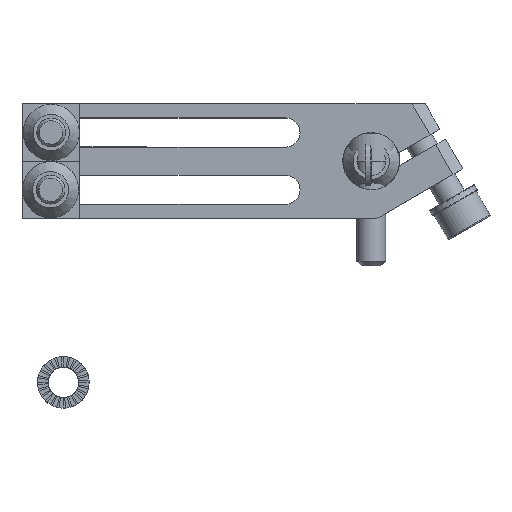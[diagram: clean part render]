
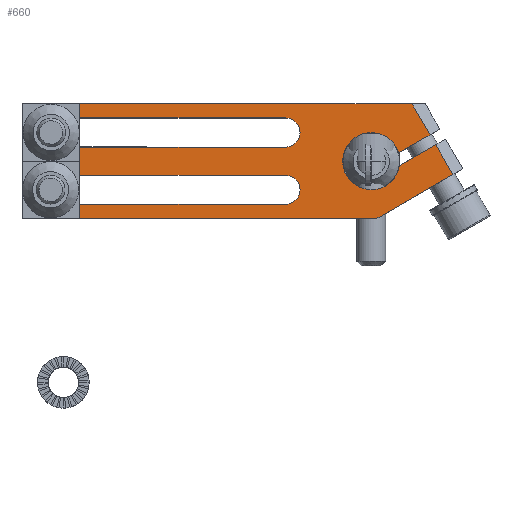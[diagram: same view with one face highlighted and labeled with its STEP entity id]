
A CAD part, top view. The second image highlights one B-rep face of the part: STEP entity #660.
In plain terms, the highlighted planar face has unit normal (0, 0, 1).
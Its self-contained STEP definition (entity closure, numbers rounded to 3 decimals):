
#660 = ADVANCED_FACE( '', ( #1394, #1395, #1396 ), #1397, .F. );
#1394 = FACE_BOUND( '', #2202, .T. );
#1395 = FACE_BOUND( '', #2203, .T. );
#1396 = FACE_OUTER_BOUND( '', #2204, .T. );
#1397 = PLANE( '', #2205 );
#2202 = EDGE_LOOP( '', ( #4266, #4267, #4268, #4269 ) );
#2203 = EDGE_LOOP( '', ( #4270, #4271, #4272, #4273 ) );
#2204 = EDGE_LOOP( '', ( #4274, #4275, #4276, #4277, #4278, #4279, #4280, #4281, #4282 ) );
#2205 = AXIS2_PLACEMENT_3D( '', #4283, #4284, #4285 );
#4266 = ORIENTED_EDGE( '', *, *, #5684, .F. );
#4267 = ORIENTED_EDGE( '', *, *, #5015, .F. );
#4268 = ORIENTED_EDGE( '', *, *, #5645, .F. );
#4269 = ORIENTED_EDGE( '', *, *, #5174, .F. );
#4270 = ORIENTED_EDGE( '', *, *, #5252, .F. );
#4271 = ORIENTED_EDGE( '', *, *, #5715, .F. );
#4272 = ORIENTED_EDGE( '', *, *, #5716, .F. );
#4273 = ORIENTED_EDGE( '', *, *, #5507, .F. );
#4274 = ORIENTED_EDGE( '', *, *, #5224, .F. );
#4275 = ORIENTED_EDGE( '', *, *, #5700, .T. );
#4276 = ORIENTED_EDGE( '', *, *, #5675, .F. );
#4277 = ORIENTED_EDGE( '', *, *, #5127, .F. );
#4278 = ORIENTED_EDGE( '', *, *, #5527, .F. );
#4279 = ORIENTED_EDGE( '', *, *, #5465, .T. );
#4280 = ORIENTED_EDGE( '', *, *, #5148, .T. );
#4281 = ORIENTED_EDGE( '', *, *, #5717, .F. );
#4282 = ORIENTED_EDGE( '', *, *, #5718, .F. );
#4283 = CARTESIAN_POINT( '', ( -61., 10., 8. ) );
#4284 = DIRECTION( '', ( 0., 0., -1. ) );
#4285 = DIRECTION( '', ( -1., 0., 0. ) );
#5015 = EDGE_CURVE( '', #6098, #6100, #6101, .T. );
#5127 = EDGE_CURVE( '', #6293, #6295, #6296, .T. );
#5148 = EDGE_CURVE( '', #6327, #6331, #6333, .T. );
#5174 = EDGE_CURVE( '', #6374, #6376, #6377, .T. );
#5224 = EDGE_CURVE( '', #6457, #6459, #6460, .T. );
#5252 = EDGE_CURVE( '', #6502, #6504, #6505, .T. );
#5465 = EDGE_CURVE( '', #6830, #6327, #6831, .T. );
#5507 = EDGE_CURVE( '', #6504, #6887, #6888, .T. );
#5527 = EDGE_CURVE( '', #6830, #6293, #6911, .T. );
#5645 = EDGE_CURVE( '', #6376, #6098, #7072, .T. );
#5675 = EDGE_CURVE( '', #6295, #7103, #7104, .T. );
#5684 = EDGE_CURVE( '', #6100, #6374, #7115, .T. );
#5700 = EDGE_CURVE( '', #6457, #7103, #7131, .T. );
#5715 = EDGE_CURVE( '', #7146, #6502, #7147, .T. );
#5716 = EDGE_CURVE( '', #6887, #7146, #7148, .T. );
#5717 = EDGE_CURVE( '', #7149, #6331, #7150, .T. );
#5718 = EDGE_CURVE( '', #6459, #7149, #7151, .F. );
#6098 = VERTEX_POINT( '', #7684 );
#6100 = VERTEX_POINT( '', #7687 );
#6101 = CIRCLE( '', #7688, 2.55 );
#6293 = VERTEX_POINT( '', #7942 );
#6295 = VERTEX_POINT( '', #7945 );
#6296 = LINE( '', #7946, #7947 );
#6327 = VERTEX_POINT( '', #7987 );
#6331 = VERTEX_POINT( '', #7993 );
#6333 = LINE( '', #7996, #7997 );
#6374 = VERTEX_POINT( '', #8052 );
#6376 = VERTEX_POINT( '', #8055 );
#6377 = CIRCLE( '', #8056, 2.55 );
#6457 = VERTEX_POINT( '', #8159 );
#6459 = VERTEX_POINT( '', #8162 );
#6460 = LINE( '', #8163, #8164 );
#6502 = VERTEX_POINT( '', #8223 );
#6504 = VERTEX_POINT( '', #8226 );
#6505 = LINE( '', #8227, #8228 );
#6830 = VERTEX_POINT( '', #8655 );
#6831 = LINE( '', #8656, #8657 );
#6887 = VERTEX_POINT( '', #8737 );
#6888 = CIRCLE( '', #8738, 2.55 );
#6911 = LINE( '', #8770, #8771 );
#7072 = LINE( '', #8986, #8987 );
#7103 = VERTEX_POINT( '', #9032 );
#7104 = LINE( '', #9033, #9034 );
#7115 = LINE( '', #9048, #9049 );
#7131 = LINE( '', #9073, #9074 );
#7146 = VERTEX_POINT( '', #9094 );
#7147 = CIRCLE( '', #9095, 2.55 );
#7148 = LINE( '', #9096, #9097 );
#7149 = VERTEX_POINT( '', #9098 );
#7150 = LINE( '', #9099, #9100 );
#7151 = CIRCLE( '', #9101, 5. );
#7684 = CARTESIAN_POINT( '', ( -15., 2.45, 8. ) );
#7687 = CARTESIAN_POINT( '', ( -15., 7.55, 8. ) );
#7688 = AXIS2_PLACEMENT_3D( '', #9389, #9390, #9391 );
#7942 = CARTESIAN_POINT( '', ( -61., -10., 8. ) );
#7945 = CARTESIAN_POINT( '', ( -61., 10., 8. ) );
#7946 = CARTESIAN_POINT( '', ( -61., -10., 8. ) );
#7947 = VECTOR( '', #9533, 1000. );
#7987 = CARTESIAN_POINT( '', ( 14.268, -2.34, 8. ) );
#7993 = CARTESIAN_POINT( '', ( 11.268, 2.856, 8. ) );
#7996 = CARTESIAN_POINT( '', ( -9.892, 39.507, 8. ) );
#7997 = VECTOR( '', #9558, 1000. );
#8052 = CARTESIAN_POINT( '', ( -55., 7.55, 8. ) );
#8055 = CARTESIAN_POINT( '', ( -55., 2.45, 8. ) );
#8056 = AXIS2_PLACEMENT_3D( '', #9586, #9587, #9588 );
#8159 = CARTESIAN_POINT( '', ( 10.268, 4.588, 8. ) );
#8162 = CARTESIAN_POINT( '', ( 4.792, 1.427, 8. ) );
#8163 = CARTESIAN_POINT( '', ( 12., 5.588, 8. ) );
#8164 = VECTOR( '', #9652, 1000. );
#8223 = CARTESIAN_POINT( '', ( -15., -2.45, 8. ) );
#8226 = CARTESIAN_POINT( '', ( -55., -2.45, 8. ) );
#8227 = CARTESIAN_POINT( '', ( -15., -2.45, 8. ) );
#8228 = VECTOR( '', #9680, 1000. );
#8655 = CARTESIAN_POINT( '', ( 1., -10., 8. ) );
#8656 = CARTESIAN_POINT( '', ( -36.84, -31.847, 8. ) );
#8657 = VECTOR( '', #10032, 1000. );
#8737 = CARTESIAN_POINT( '', ( -55., -7.55, 8. ) );
#8738 = AXIS2_PLACEMENT_3D( '', #10069, #10070, #10071 );
#8770 = CARTESIAN_POINT( '', ( 16., -10., 8. ) );
#8771 = VECTOR( '', #10087, 1000. );
#8986 = CARTESIAN_POINT( '', ( -15., 2.45, 8. ) );
#8987 = VECTOR( '', #10289, 1000. );
#9032 = CARTESIAN_POINT( '', ( 7.144, 10., 8. ) );
#9033 = CARTESIAN_POINT( '', ( -61., 10., 8. ) );
#9034 = VECTOR( '', #10304, 1000. );
#9048 = CARTESIAN_POINT( '', ( -15., 7.55, 8. ) );
#9049 = VECTOR( '', #10311, 1000. );
#9073 = CARTESIAN_POINT( '', ( -9.892, 39.507, 8. ) );
#9074 = VECTOR( '', #10320, 1000. );
#9094 = CARTESIAN_POINT( '', ( -15., -7.55, 8. ) );
#9095 = AXIS2_PLACEMENT_3D( '', #10326, #10327, #10328 );
#9096 = CARTESIAN_POINT( '', ( -15., -7.55, 8. ) );
#9097 = VECTOR( '', #10329, 1000. );
#9098 = CARTESIAN_POINT( '', ( 4.936, -0.8, 8. ) );
#9099 = CARTESIAN_POINT( '', ( 4.34, -1.144, 8. ) );
#9100 = VECTOR( '', #10330, 1000. );
#9101 = AXIS2_PLACEMENT_3D( '', #10331, #10332, #10333 );
#9389 = CARTESIAN_POINT( '', ( -15., 5., 8. ) );
#9390 = DIRECTION( '', ( 0., 0., 1. ) );
#9391 = DIRECTION( '', ( 0., -1., 0. ) );
#9533 = DIRECTION( '', ( 0., 1., 0. ) );
#9558 = DIRECTION( '', ( -0.5, 0.866, 0. ) );
#9586 = CARTESIAN_POINT( '', ( -55., 5., 8. ) );
#9587 = DIRECTION( '', ( 0., 0., 1. ) );
#9588 = DIRECTION( '', ( 0., 1., 0. ) );
#9652 = DIRECTION( '', ( -0.866, -0.5, 0. ) );
#9680 = DIRECTION( '', ( -1., 0., 0. ) );
#10032 = DIRECTION( '', ( 0.866, 0.5, 0. ) );
#10069 = CARTESIAN_POINT( '', ( -55., -5., 8. ) );
#10070 = DIRECTION( '', ( 0., 0., 1. ) );
#10071 = DIRECTION( '', ( 0., 1., 0. ) );
#10087 = DIRECTION( '', ( -1., 0., 0. ) );
#10289 = DIRECTION( '', ( 1., 0., 0. ) );
#10304 = DIRECTION( '', ( 1., 0., 0. ) );
#10311 = DIRECTION( '', ( -1., 0., 0. ) );
#10320 = DIRECTION( '', ( -0.5, 0.866, 0. ) );
#10326 = CARTESIAN_POINT( '', ( -15., -5., 8. ) );
#10327 = DIRECTION( '', ( 0., 0., 1. ) );
#10328 = DIRECTION( '', ( 0., -1., 0. ) );
#10329 = DIRECTION( '', ( 1., 0., 0. ) );
#10330 = DIRECTION( '', ( 0.866, 0.5, 0. ) );
#10331 = CARTESIAN_POINT( '', ( 0., 0., 8. ) );
#10332 = DIRECTION( '', ( 0., 0., -1. ) );
#10333 = DIRECTION( '', ( -1., 0., 0. ) );
